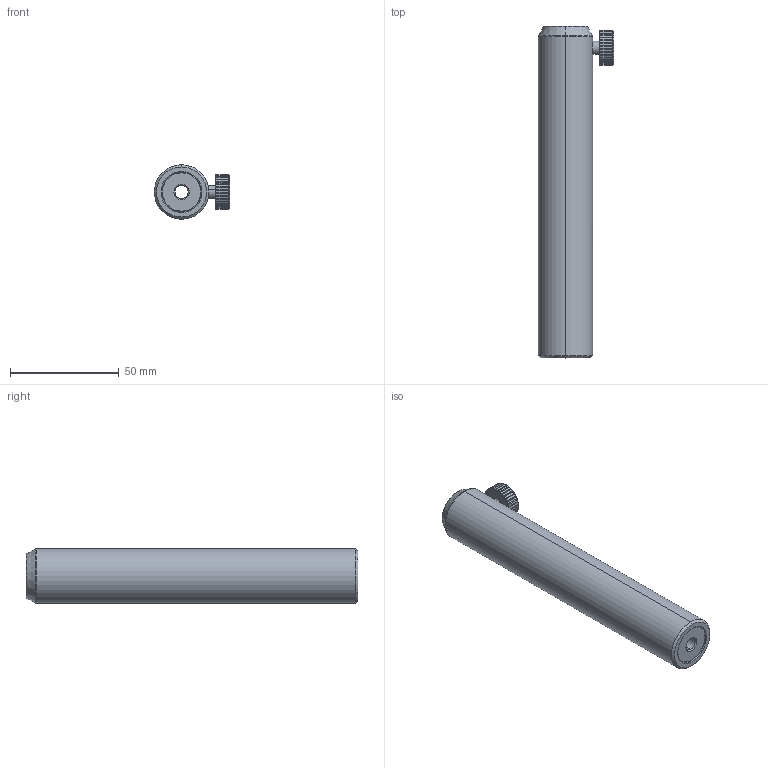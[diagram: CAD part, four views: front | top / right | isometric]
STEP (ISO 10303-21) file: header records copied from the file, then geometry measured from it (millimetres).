
FILE_DESCRIPTION (( 'STEP AP203' ), '1' );
FILE_NAME ('M-PH-6.STEP', '2020-07-23T00:50:30', ( '' ), ( '' ), 'SwSTEP 2.0', 'SolidWorks 2019', '' );
FILE_SCHEMA (( 'CONFIG_CONTROL_DESIGN' ));
Length unit declared in the file: millimetre
Products named in the file (1): M-PH-6
Bounding box: 34.59 x 152.4 x 25 mm (x, y, z)
Volume: 55463.2 mm3; surface area: 20809.1 mm2
Topology: 2 solids, 4 shells, 213 faces, 564 edges, 368 vertices
Faces by surface type: plane 112, cylinder 75, cone 16, torus 4, sphere 4, bspline 2
Entity records: 8985 total; most frequent: CARTESIAN_POINT 3706, ORIENTED_EDGE 1110, DIRECTION 1050, EDGE_CURVE 555, AXIS2_PLACEMENT_3D 385, VERTEX_POINT 363, VECTOR 280, LINE 280
